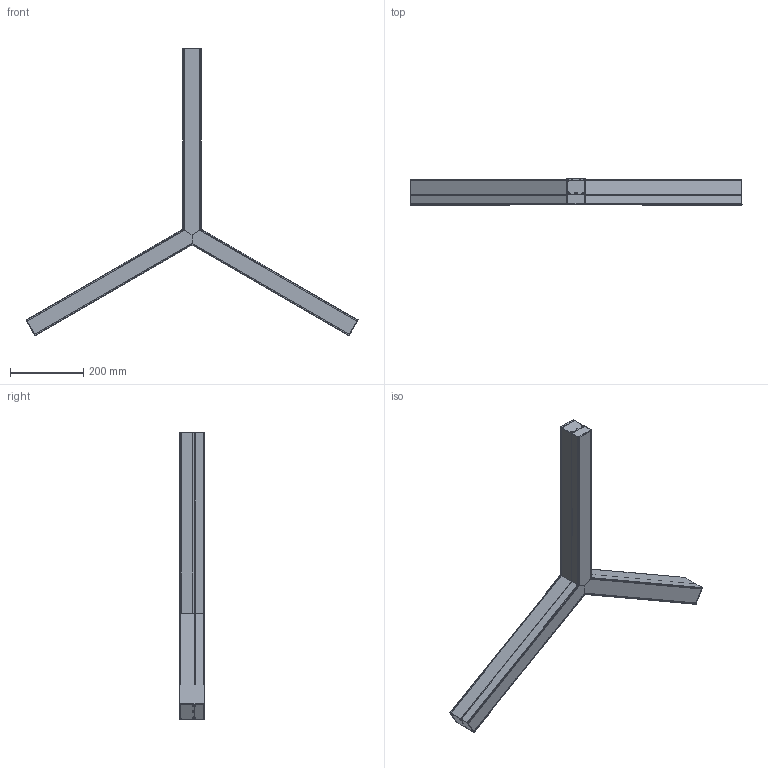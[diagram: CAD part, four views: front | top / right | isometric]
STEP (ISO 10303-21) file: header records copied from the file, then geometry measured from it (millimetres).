
FILE_DESCRIPTION(('STEP AP203'), '1');
FILE_NAME('Ìèêêî Òðèòèê 30Âò', '', ('UNSPECIFIED'), ('UNSPECIFIED'), 'ASCON STEP Converter 1.6', 'ASCON Math Kernel', '');
FILE_SCHEMA(('CONFIG_CONTROL_DESIGN'));
Length unit declared in the file: millimetre
Products named in the file (4): -01
Assembly tree (7 placements, depth 3):
  (unnamed)
    (unnamed)
      (unnamed)  x2
    -01  x2
      (unnamed)
Bounding box: 904.88 x 70 x 783.8 mm (x, y, z)
Volume: 657511.7 mm3; surface area: 1014388 mm2
Topology: 16 solids, 16 shells, 800 faces, 2272 edges, 1528 vertices
Faces by surface type: cylinder 374, plane 370, bspline 24, cone 18, torus 14
Full cylindrical faces by diameter (mm): 2.9 x6, 6.3 x6, 8 x1, 10 x2, 14 x2
Entity records: 15911 total; most frequent: CARTESIAN_POINT 3619, ORIENTED_EDGE 2642, DIRECTION 2304, EDGE_CURVE 1321, VERTEX_POINT 889, LINE 800, VECTOR 800, AXIS2_PLACEMENT_3D 752
